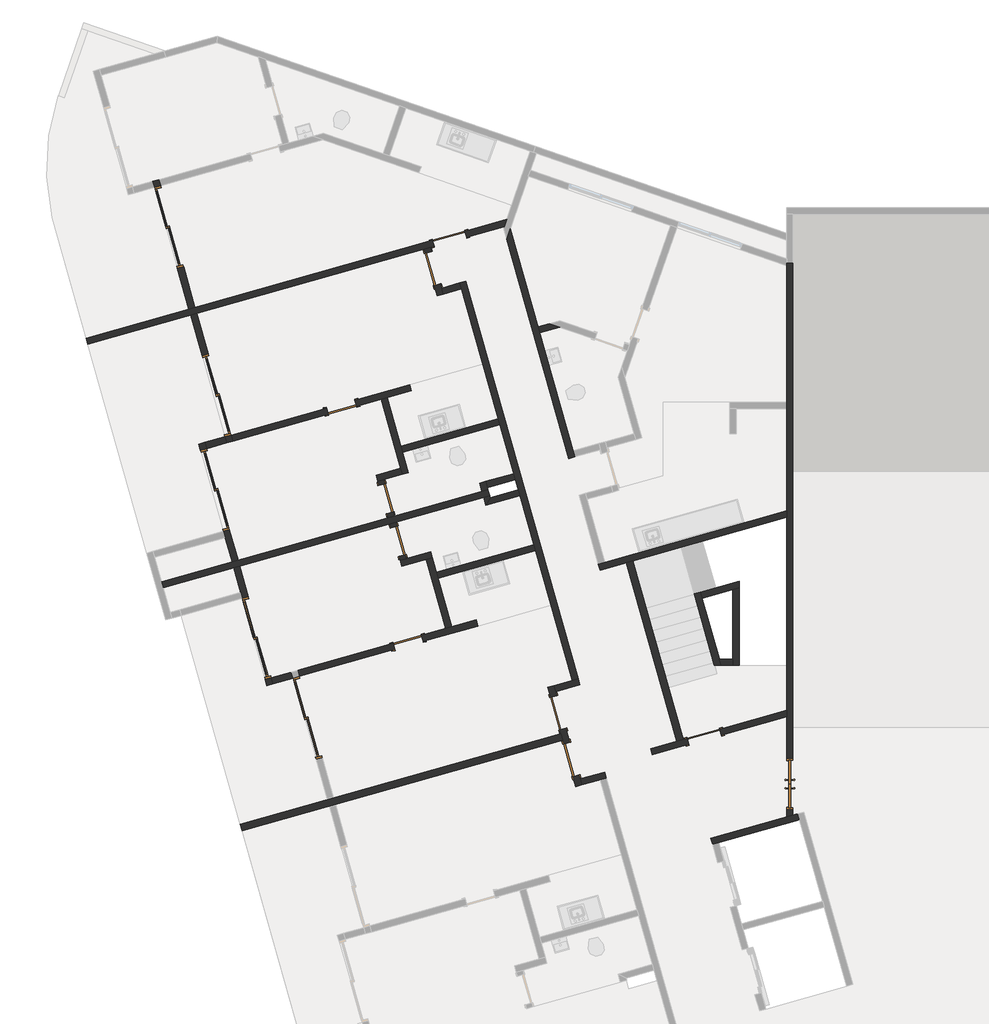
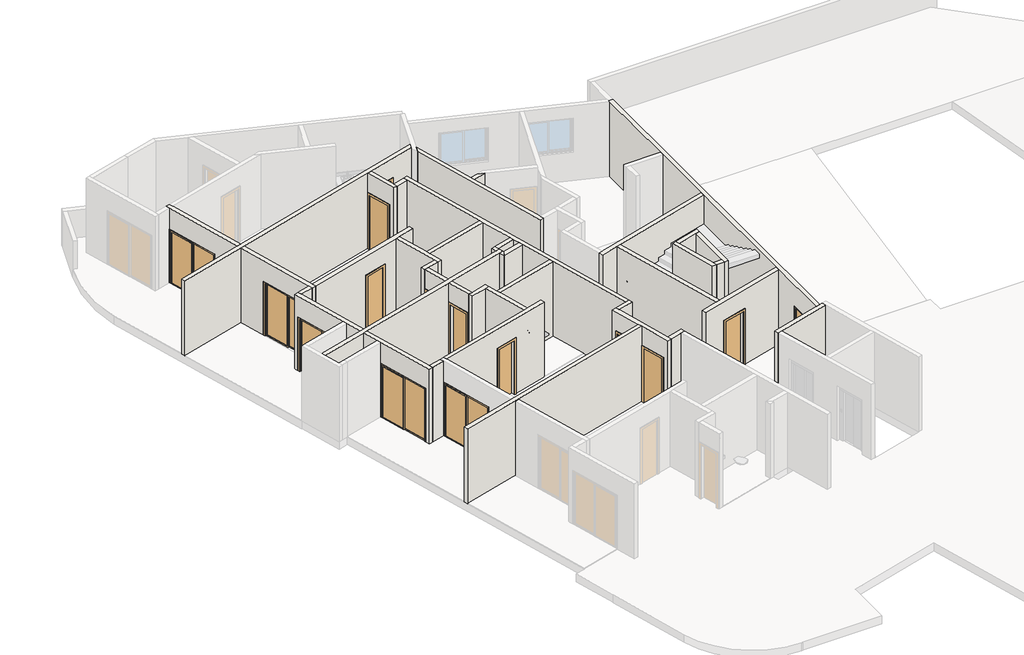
# One storey, part 2 of 4: 40 walls, 15 doors.
"""IFC4 building model written with IfcOpenShell, lengths in millimetres."""

from ifc_helpers import new_model, si_unit, frame, origin, place, context, project, spatial, polyline, outline, extrude, faceted_brep, transform, mapped, element, save
from components import door_1_20_x_2_10_046a985c, p2_80cm_9d4be4ef, p2_80cm_083652d6, p3_70cm_ef4d15e3, p3_70cm_0a698c7c, p4_correr_200cm_eaaa0877

model = new_model("IFC4")

# Units and contexts
model_context = context("Model", 3, world=origin())
ifc_project = project(units=[si_unit("LENGTHUNIT", "METRE", prefix="MILLI")], contexts=[model_context])

# Site, building, storey
site = spatial("IfcSite", under=ifc_project)
building = spatial("IfcBuilding", under=site)
storey = spatial("IfcBuildingStorey", under=building, Name="Garagem 3", Elevation=42050.0)

# Doors
placement = place(None, origin())
door_1_20_x_2_10_shape = door_1_20_x_2_10_046a985c(model_context)
element("IfcDoor", 1, ObjectType="Porta pivotante dupla sem revestimento : 1.20 x 2.10", at=placement, inside=storey, context=model_context, shape_type="MappedRepresentation", body=[
    mapped(door_1_20_x_2_10_shape, transform((-75072.8282189, 18002.5140353, 42050.0), x_axis=(0.0, -1.0, 0.0), y_axis=(1.0, 0.0, 0.0), z_axis=(0.0, 0.0, 1.0))),
])
p2_80cm_shape = p2_80cm_9d4be4ef(model_context)
element("IfcDoor", 2, ObjectType="M_Folha única1 : P2 - 80CM", at=placement, inside=storey, context=model_context, shape_type="MappedRepresentation", body=[
    mapped(p2_80cm_shape, transform((-83145.1128896, 30941.0402894, 42050.0), x_axis=(-0.9623628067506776, -0.2717679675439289, 0.0), y_axis=(0.2717679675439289, -0.9623628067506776, 0.0), z_axis=(0.0, 0.0, 1.0))),
])
element("IfcDoor", 3, ObjectType="M_Folha única1 : P2 - 80CM", at=placement, inside=storey, context=model_context, shape_type="MappedRepresentation", body=[
    mapped(p2_80cm_shape, transform((-80566.3456776, 19693.5423602, 42050.0), x_axis=(0.2717679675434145, -0.9623628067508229, 0.0), y_axis=(0.9623628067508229, 0.2717679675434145, 0.0), z_axis=(0.0, 0.0, 1.0))),
])
p2_80cm_2_shape = p2_80cm_083652d6(model_context)
element("IfcDoor", 4, ObjectType="M_Folha única1 : P2 - 80CM", at=placement, inside=storey, context=model_context, shape_type="MappedRepresentation", body=[
    mapped(p2_80cm_2_shape, transform((-83542.2049222, 30231.4150941, 42050.0), x_axis=(-0.2717679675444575, 0.9623628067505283, 0.0), y_axis=(-0.9623628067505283, -0.2717679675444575, 0.0), z_axis=(0.0, 0.0, 1.0))),
])
element("IfcDoor", 5, ObjectType="M_Folha única1 : P2 - 80CM", at=placement, inside=storey, context=model_context, shape_type="MappedRepresentation", body=[
    mapped(p2_80cm_2_shape, transform((-80253.8125149, 18586.8251325, 42050.0), x_axis=(-0.2717679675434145, 0.9623628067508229, 0.0), y_axis=(-0.9623628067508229, -0.2717679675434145, 0.0), z_axis=(0.0, 0.0, 1.0))),
])
p3_70cm_shape = p3_70cm_ef4d15e3(model_context)
element("IfcDoor", 6, ObjectType="M_Folha única1 : P3 - 70CM", at=placement, inside=storey, context=model_context, shape_type="MappedRepresentation", body=[
    mapped(p3_70cm_shape, transform((-84129.1775441, 21363.1168842, 42050.0), x_axis=(0.9623628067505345, 0.27176796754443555, 0.0), y_axis=(-0.27176796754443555, 0.9623628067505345, 0.0), z_axis=(0.0, 0.0, 1.0))),
])
element("IfcDoor", 7, ObjectType="M_Folha única1 : P3 - 70CM", at=placement, inside=storey, context=model_context, shape_type="MappedRepresentation", body=[
    mapped(p3_70cm_shape, transform((-84650.97864, 24774.7108835, 42050.0), x_axis=(0.2717679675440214, -0.9623628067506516, 0.0), y_axis=(0.9623628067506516, 0.2717679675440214, 0.0), z_axis=(0.0, 0.0, 1.0))),
])
p3_70cm_2_shape = p3_70cm_0a698c7c(model_context)
element("IfcDoor", 8, ObjectType="M_Folha única1 : P3 - 70CM", at=placement, inside=storey, context=model_context, shape_type="MappedRepresentation", body=[
    mapped(p3_70cm_2_shape, transform((-84365.6222741, 23764.2299364, 42050.0), x_axis=(-0.2717679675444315, 0.9623628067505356, 0.0), y_axis=(-0.9623628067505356, -0.2717679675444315, 0.0), z_axis=(0.0, 0.0, 1.0))),
])
element("IfcDoor", 9, ObjectType="M_Folha única1 : P3 - 70CM", at=placement, inside=storey, context=model_context, shape_type="MappedRepresentation", body=[
    mapped(p3_70cm_2_shape, transform((-85705.4317558, 26944.8211633, 42050.0), x_axis=(0.9623628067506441, 0.2717679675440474, 0.0), y_axis=(-0.2717679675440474, 0.9623628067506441, 0.0), z_axis=(0.0, 0.0, 1.0))),
])
p4_correr_200cm_shape = p4_correr_200cm_eaaa0877(model_context)
element("IfcDoor", 10, ObjectType="Porta de correr dupla envidraçada sem revestimento : P4 - CORRER - 200CM", at=placement, inside=storey, context=model_context, shape_type="MappedRepresentation", body=[
    mapped(p4_correr_200cm_shape, transform((-89799.7974026, 31217.9316171, 42050.0), x_axis=(0.27176796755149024, -0.9623628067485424, 0.0), y_axis=(0.9623628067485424, 0.27176796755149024, 0.0), z_axis=(0.0, 0.0, 1.0))),
])
element("IfcDoor", 11, ObjectType="Porta de correr dupla envidraçada sem revestimento : P4 - CORRER - 200CM", at=placement, inside=storey, context=model_context, shape_type="MappedRepresentation", body=[
    mapped(p4_correr_200cm_shape, transform((-88671.9603372, 27224.125969, 42050.0), x_axis=(-0.27176796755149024, 0.9623628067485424, 0.0), y_axis=(-0.9623628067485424, -0.27176796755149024, 0.0), z_axis=(0.0, 0.0, 1.0))),
])
element("IfcDoor", 12, ObjectType="Porta de correr dupla envidraçada sem revestimento : P4 - CORRER - 200CM", at=placement, inside=storey, context=model_context, shape_type="MappedRepresentation", body=[
    mapped(p4_correr_200cm_shape, transform((-86511.4049952, 19573.3416554, 42050.0), x_axis=(0.2717679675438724, -0.9623628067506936, 0.0), y_axis=(0.9623628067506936, 0.2717679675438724, 0.0), z_axis=(0.0, 0.0, 1.0))),
])
element("IfcDoor", 13, ObjectType="Porta de correr dupla envidraçada sem revestimento : P4 - CORRER - 200CM", at=placement, inside=storey, context=model_context, shape_type="MappedRepresentation", body=[
    mapped(p4_correr_200cm_shape, transform((-87717.4207223, 21466.8516126, 42050.0), x_axis=(0.2717679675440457, -0.9623628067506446, 0.0), y_axis=(0.9623628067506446, 0.2717679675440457, 0.0), z_axis=(0.0, 0.0, 1.0))),
])
element("IfcDoor", 14, ObjectType="Porta de correr dupla envidraçada sem revestimento : P4 - CORRER - 200CM", at=placement, inside=storey, context=model_context, shape_type="MappedRepresentation", body=[
    mapped(p4_correr_200cm_shape, transform((-88709.3738038, 24979.4758572, 42050.0), x_axis=(-0.2717679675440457, 0.9623628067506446, 0.0), y_axis=(-0.9623628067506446, -0.2717679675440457, 0.0), z_axis=(0.0, 0.0, 1.0))),
])
element("IfcDoor", 15, ObjectType="M_Folha única1 : PCF1 - 80CM", at=placement, inside=storey, context=model_context, shape_type="MappedRepresentation", body=[
    mapped(p2_80cm_shape, transform((-77103.5502958, 19127.1105693, 42050.0), x_axis=(-0.9623628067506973, -0.2717679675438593, 0.0), y_axis=(0.2717679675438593, -0.9623628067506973, 0.0), z_axis=(0.0, 0.0, 1.0))),
])

# Walls
element("IfcWall", 16, ObjectType="Básica .15 -  Interna", at=placement, inside=storey, context=model_context, shape_type="Brep", body=[
    faceted_brep([(-82901.0804648, 29892.9118737, 42050.0), (-82860.3152697, 29748.5574527, 42050.0), (-81990.6577736, 26668.9964711, 42050.0), (-81949.8925784, 26524.6420501, 42050.0), (-81623.7710174, 25369.806682, 42050.0), (-81583.0058223, 25225.452261, 42050.0), (-81515.0638304, 24984.8615593, 42050.0), (-81474.2986352, 24840.5071383, 42050.0), (-81148.1770742, 23685.6717702, 42050.0), (-81107.4118791, 23541.3173492, 42050.0), (-80237.7543829, 20461.7563676, 42050.0), (-80237.7543829, 20461.7563676, 44950.0), (-81107.4118791, 23541.3173492, 44950.0), (-81148.1770742, 23685.6717702, 44950.0), (-81474.2986352, 24840.5071383, 44950.0), (-81515.0638304, 24984.8615593, 44950.0), (-81583.0058223, 25225.452261, 44950.0), (-81623.7710174, 25369.806682, 44950.0), (-81949.8925784, 26524.6420501, 44950.0), (-81990.6577736, 26668.9964711, 44950.0), (-82860.3152697, 29748.5574527, 44950.0), (-82901.0804648, 29892.9118737, 44950.0), (-82756.7260438, 29933.6770689, 42050.0), (-82756.7260438, 29933.6770689, 44950.0), (-80093.3999619, 20502.5215627, 44950.0), (-80093.3999619, 20502.5215627, 42050.0)], [[[0, 1, 2, 3, 4, 5, 6, 7, 8, 9, 10, 11, 12, 13, 14, 15, 16, 17, 18, 19, 20, 21]], [[22, 23, 24, 25]], [[10, 9, 8, 7, 6, 5, 4, 3, 2, 1, 0, 22, 25]], [[21, 20, 19, 18, 17, 16, 15, 14, 13, 12, 11, 24, 23]], [[0, 21, 23, 22]], [[11, 10, 25, 24]]]),
])
element("IfcWall", 17, ObjectType="Básica .15 -  Interna", at=placement, inside=storey, context=model_context, shape_type="Brep", body=[
    faceted_brep([(-83750.2661164, 30692.2138999, 42050.0), (-83723.0893197, 30595.9776193, 42050.0), (-83723.0893197, 30595.9776193, 44150.0), (-83505.6749457, 29826.0873739, 44150.0), (-83505.6749457, 29826.0873739, 42050.0), (-83437.7329538, 29585.4966722, 42050.0), (-83437.7329538, 29585.4966722, 44950.0), (-83750.2661164, 30692.2138999, 44950.0), (-83578.7348987, 30636.7428144, 44150.0), (-83578.7348987, 30636.7428144, 42050.0), (-83605.9116954, 30732.9790951, 42050.0), (-83605.9116954, 30732.9790951, 44950.0), (-83334.1437279, 29770.6162883, 44950.0), (-83293.3785328, 29626.2618673, 44950.0), (-83293.3785328, 29626.2618673, 42050.0), (-83334.1437279, 29770.6162883, 42050.0), (-83361.3205246, 29866.852569, 42050.0), (-83361.3205246, 29866.852569, 44150.0)], [[[0, 1, 2, 3, 4, 5, 6, 7]], [[8, 9, 10, 11, 12, 13, 14, 15, 16, 17]], [[10, 9, 1, 0]], [[16, 15, 14, 5, 4]], [[7, 6, 13, 12, 11]], [[6, 5, 14, 13]], [[0, 7, 11, 10]], [[2, 1, 9, 8]], [[3, 2, 8, 17]], [[4, 3, 17, 16]]]),
])
element("IfcWall", 18, ObjectType="Básica .15 -  Interna", at=placement, inside=storey, context=model_context, shape_type="SweptSolid", body=[
    extrude(outline(polyline([(-82860.3152697, 29748.5574527), (-83293.3785328, 29626.2618673), (-83334.1437279, 29770.6162883), (-82901.0804648, 29892.9118737), (-82860.3152697, 29748.5574527)])), frame((0.0, 0.0, 42050.0), z_axis=(0.0, 0.0, 1.0), x_axis=(1.0, 0.0, 0.0)), (0.0, 0.0, 1.0), 2900.0),
])
element("IfcWall", 19, ObjectType="Básica .15 -  Interna", at=placement, inside=storey, context=model_context, shape_type="Brep", body=[
    faceted_brep([(-80093.3999619, 20502.5215627, 42050.0), (-80237.7543829, 20461.7563676, 42050.0), (-80670.817646, 20339.4607822, 42050.0), (-80670.817646, 20339.4607822, 44950.0), (-80237.7543829, 20461.7563676, 44950.0), (-80093.3999619, 20502.5215627, 44950.0), (-80052.6347668, 20358.1671417, 42050.0), (-80052.6347668, 20358.1671417, 44950.0), (-80630.0524508, 20195.1063612, 44950.0), (-80630.0524508, 20195.1063612, 42050.0)], [[[0, 1, 2, 3, 4, 5]], [[6, 7, 8, 9]], [[2, 1, 0, 6, 9]], [[5, 4, 3, 8, 7]], [[3, 2, 9, 8]], [[0, 5, 7, 6]]]),
])
element("IfcWall", 20, ObjectType="Básica .15 -  Interna", at=placement, inside=storey, context=model_context, shape_type="Brep", body=[
    faceted_brep([(-80529.815701, 19288.21464, 42050.0), (-80502.6389043, 19191.9783593, 42050.0), (-80461.8737092, 19047.6239383, 42050.0), (-80434.6969124, 18951.3876576, 42050.0), (-80434.6969124, 18951.3876576, 44150.0), (-80217.2825384, 18181.4974122, 44150.0), (-80217.2825384, 18181.4974122, 42050.0), (-80149.3405465, 17940.9067105, 42050.0), (-80149.3405465, 17940.9067105, 44950.0), (-80461.8737092, 19047.6239383, 44950.0), (-80502.6389043, 19191.9783593, 44950.0), (-80815.172067, 20298.695587, 44950.0), (-80815.172067, 20298.695587, 42050.0), (-80747.2300751, 20058.1048854, 42050.0), (-80747.2300751, 20058.1048854, 44150.0), (-80529.815701, 19288.21464, 44150.0), (-80290.3424914, 18992.1528527, 44150.0), (-80290.3424914, 18992.1528527, 42050.0), (-80385.46128, 19328.9798351, 42050.0), (-80385.46128, 19328.9798351, 44150.0), (-80602.8756541, 20098.8700805, 44150.0), (-80602.8756541, 20098.8700805, 42050.0), (-80630.0524508, 20195.1063612, 42050.0), (-80670.817646, 20339.4607822, 42050.0), (-80670.817646, 20339.4607822, 44950.0), (-80630.0524508, 20195.1063612, 44950.0), (-80045.7513206, 18126.0263266, 44950.0), (-80004.9861255, 17981.6719056, 44950.0), (-80004.9861255, 17981.6719056, 42050.0), (-80045.7513206, 18126.0263266, 42050.0), (-80072.9281174, 18222.2626073, 42050.0), (-80072.9281174, 18222.2626073, 44150.0)], [[[0, 1, 2, 3, 4, 5, 6, 7, 8, 9, 10, 11, 12, 13, 14, 15]], [[16, 17, 18, 19, 20, 21, 22, 23, 24, 25, 26, 27, 28, 29, 30, 31]], [[13, 12, 23, 22, 21]], [[18, 17, 3, 2, 1, 0]], [[30, 29, 28, 7, 6]], [[11, 10, 9, 8, 27, 26, 25, 24]], [[12, 11, 24, 23]], [[8, 7, 28, 27]], [[19, 18, 0, 15]], [[20, 19, 15, 14]], [[21, 20, 14, 13]], [[4, 3, 17, 16]], [[5, 4, 16, 31]], [[6, 5, 31, 30]]]),
])
element("IfcWall", 21, ObjectType="Básica .15 -  Interna", at=placement, inside=storey, context=model_context, shape_type="Brep", body=[
    faceted_brep([(-80004.9861255, 17981.6719056, 42050.0), (-79571.9228624, 18103.967491, 42050.0), (-79427.5684414, 18144.7326862, 42050.0), (-79427.5684414, 18144.7326862, 44950.0), (-79571.9228624, 18103.967491, 44950.0), (-80004.9861255, 17981.6719056, 44950.0), (-80045.7513206, 18126.0263266, 42050.0), (-80045.7513206, 18126.0263266, 44950.0), (-79468.3336366, 18289.0871072, 44950.0), (-79468.3336366, 18289.0871072, 42050.0)], [[[0, 1, 2, 3, 4, 5]], [[6, 7, 8, 9]], [[2, 1, 0, 6, 9]], [[5, 4, 3, 8, 7]], [[3, 2, 9, 8]], [[0, 5, 7, 6]]]),
])
element("IfcWall", 22, ObjectType="Básica .15 -  Interna", at=placement, inside=storey, context=model_context, shape_type="Brep", body=[
    faceted_brep([(-88305.9570711, 23274.9583478, 44950.0), (-88469.0178517, 23852.3760319, 44950.0), (-88509.7830468, 23996.7304529, 44950.0), (-89094.084177, 26065.8104874, 44950.0), (-89094.084177, 26065.8104874, 42050.0), (-89053.3189819, 25921.4560664, 42050.0), (-89053.3189819, 25921.4560664, 44150.0), (-88509.7830468, 23996.7304529, 44150.0), (-88509.7830468, 23996.7304529, 42050.0), (-88469.0178517, 23852.3760319, 42050.0), (-88305.9570711, 23274.9583478, 42050.0), (-88949.729756, 26106.5756825, 44950.0), (-88908.9645609, 25962.2212615, 44950.0), (-88161.6026501, 23315.723543, 44950.0), (-88161.6026501, 23315.723543, 42050.0), (-88365.4286258, 24037.495648, 42050.0), (-88365.4286258, 24037.495648, 44150.0), (-88908.9645609, 25962.2212615, 44150.0), (-88908.9645609, 25962.2212615, 42050.0), (-88949.729756, 26106.5756825, 42050.0)], [[[0, 1, 2, 3, 4, 5, 6, 7, 8, 9, 10]], [[11, 12, 13, 14, 15, 16, 17, 18, 19]], [[4, 19, 18, 5]], [[14, 10, 9, 8, 15]], [[3, 2, 1, 0, 13, 12, 11]], [[4, 3, 11, 19]], [[0, 10, 14, 13]], [[17, 6, 5, 18]], [[6, 17, 16, 7]], [[7, 16, 15, 8]]]),
])
element("IfcWall", 23, ObjectType="Básica .15 -  Interna", at=placement, inside=storey, context=model_context, shape_type="Brep", body=[
    faceted_brep([(-89143.3190618, 29169.2341801, 44950.0), (-88328.0151592, 26282.1457598, 44950.0), (-88287.249964, 26137.7913388, 44950.0), (-88287.249964, 26137.7913388, 42050.0), (-88328.0151592, 26282.1457598, 42050.0), (-88328.0151592, 26282.1457598, 44150.0), (-88871.5510943, 28206.8713733, 44150.0), (-88871.5510943, 28206.8713733, 42050.0), (-89143.3190618, 29169.2341801, 42050.0), (-88431.604385, 26097.0261437, 44950.0), (-88472.3695802, 26241.3805647, 44950.0), (-89287.6734828, 29128.468985, 44950.0), (-89287.6734828, 29128.468985, 42050.0), (-89015.9055153, 28166.1061782, 42050.0), (-89015.9055153, 28166.1061782, 44150.0), (-88472.3695802, 26241.3805647, 44150.0), (-88472.3695802, 26241.3805647, 42050.0), (-88431.604385, 26097.0261437, 42050.0)], [[[0, 1, 2, 3, 4, 5, 6, 7, 8]], [[9, 10, 11, 12, 13, 14, 15, 16, 17]], [[3, 17, 16, 4]], [[12, 8, 7, 13]], [[2, 1, 0, 11, 10, 9]], [[3, 2, 9, 17]], [[0, 8, 12, 11]], [[6, 14, 13, 7]], [[14, 6, 5, 15]], [[15, 5, 4, 16]]]),
])
element("IfcWall", 24, ObjectType="Básica .15 -  Interna", at=placement, inside=storey, context=model_context, shape_type="Brep", body=[
    faceted_brep([(-76904.7538909, 16570.3643175, 42050.0), (-76760.3994699, 16611.1295126, 42050.0), (-74840.4856705, 17153.3066079, 42050.0), (-74840.4856705, 17153.3066079, 44950.0), (-76760.3994699, 16611.1295126, 44950.0), (-76904.7538909, 16570.3643175, 44950.0), (-76945.5190861, 16714.7187385, 42050.0), (-76945.5190861, 16714.7187385, 44950.0), (-75147.8282189, 17222.3804954, 44950.0), (-74997.8282189, 17264.7399828, 44950.0), (-74881.2508656, 17297.6610289, 44950.0), (-74881.2508656, 17297.6610289, 42050.0), (-74997.8282189, 17264.7399828, 42050.0), (-75147.8282189, 17222.3804954, 42050.0)], [[[0, 1, 2, 3, 4, 5]], [[6, 7, 8, 9, 10, 11, 12, 13]], [[2, 1, 0, 6, 13, 12, 11]], [[5, 4, 3, 10, 9, 8, 7]], [[0, 5, 7, 6]], [[3, 2, 11, 10]]]),
])
element("IfcWall", 25, ObjectType="Básica .15 -  Interna", at=placement, inside=storey, context=model_context, shape_type="Brep", body=[
    faceted_brep([(-79570.9048554, 23078.5590693, 42050.0), (-78948.2127609, 23254.4051886, 42050.0), (-78803.8582924, 23295.1703972, 42050.0), (-75147.8282189, 24327.6207947, 42050.0), (-75147.8282189, 24327.6207947, 44950.0), (-78803.8582924, 23295.1703972, 44950.0), (-78948.2127609, 23254.4051886, 44950.0), (-79570.9048554, 23078.5590693, 44950.0), (-79611.6700506, 23222.9134903, 42050.0), (-79611.6700506, 23222.9134903, 44950.0), (-79467.3156296, 23263.6786855, 44950.0), (-75147.8282189, 24483.4871675, 44950.0), (-75147.8282189, 24483.4871675, 42050.0), (-79467.3156296, 23263.6786855, 42050.0)], [[[0, 1, 2, 3, 4, 5, 6, 7]], [[8, 9, 10, 11, 12, 13]], [[3, 2, 1, 0, 8, 13, 12]], [[7, 6, 5, 4, 11, 10, 9]], [[0, 7, 9, 8]], [[4, 3, 12, 11]]]),
])
element("IfcWall", 26, ObjectType="Básica .15 -  Interna", at=placement, inside=storey, context=model_context, shape_type="SweptSolid", body=[
    extrude(outline(polyline([(-77749.4687652, 19022.6385875), (-78948.2127609, 23254.4051886), (-78803.8582924, 23295.1703972), (-77605.1142967, 19063.4037961), (-77749.4687652, 19022.6385875)])), frame((0.0, 0.0, 42050.0), z_axis=(0.0, 0.0, 1.0), x_axis=(1.0, 0.0, 0.0)), (0.0, 0.0, 1.0), 2900.0),
])
element("IfcWall", 27, ObjectType="Básica .15 -  Interna", at=placement, inside=storey, context=model_context, shape_type="Brep", body=[
    faceted_brep([(-77508.878016, 19090.5805928, 44150.0), (-77508.878016, 19090.5805928, 42050.0), (-77605.1142967, 19063.4037961, 42050.0), (-77749.4687652, 19022.6385875, 42050.0), (-78375.5945972, 18845.8227925, 42050.0), (-78375.5945972, 18845.8227925, 44950.0), (-77749.4687652, 19022.6385875, 44950.0), (-77605.1142967, 19063.4037961, 44950.0), (-75147.8282189, 19757.3329862, 44950.0), (-75147.8282189, 19757.3329862, 42050.0), (-76738.9877706, 19307.9949669, 42050.0), (-76738.9877706, 19307.9949669, 44150.0), (-78334.829402, 18701.4683715, 42050.0), (-77468.1128209, 18946.2261718, 42050.0), (-77468.1128209, 18946.2261718, 44150.0), (-76698.2225755, 19163.6405459, 44150.0), (-76698.2225755, 19163.6405459, 42050.0), (-75147.8282189, 19601.4666134, 42050.0), (-75147.8282189, 19601.4666134, 44950.0), (-78334.829402, 18701.4683715, 44950.0)], [[[0, 1, 2, 3, 4, 5, 6, 7, 8, 9, 10, 11]], [[12, 13, 14, 15, 16, 17, 18, 19]], [[10, 9, 17, 16]], [[4, 3, 2, 1, 13, 12]], [[5, 4, 12, 19]], [[8, 7, 6, 5, 19, 18]], [[14, 13, 1, 0]], [[15, 14, 0, 11]], [[16, 15, 11, 10]], [[9, 8, 18, 17]]]),
])
element("IfcWall", 28, ObjectType="Básica .15 -  Interna", at=placement, inside=storey, context=model_context, shape_type="Brep", body=[
    faceted_brep([(-75147.8282189, 17222.3804954, 44950.0), (-75147.8282189, 19601.4666134, 44950.0), (-75147.8282189, 19757.3329862, 44950.0), (-75147.8282189, 24327.6207947, 44950.0), (-75147.8282189, 24483.4871675, 44950.0), (-75147.8282189, 26910.8243598, 44950.0), (-75147.8282189, 27060.8243598, 44950.0), (-75147.8282189, 30302.8666514, 44950.0), (-75147.8282189, 30356.258394, 44950.0), (-75147.8282189, 30356.258394, 42050.0), (-75147.8282189, 30302.8666514, 42050.0), (-75147.8282189, 27060.8243598, 42050.0), (-75147.8282189, 26910.8243598, 42050.0), (-75147.8282189, 24483.4871675, 42050.0), (-75147.8282189, 24327.6207947, 42050.0), (-75147.8282189, 19757.3329862, 42050.0), (-75147.8282189, 19601.4666134, 42050.0), (-75147.8282189, 18602.5140353, 42050.0), (-75147.8282189, 18602.5140353, 44150.0), (-75147.8282189, 17402.5140353, 44150.0), (-75147.8282189, 17402.5140353, 42050.0), (-75147.8282189, 17222.3804954, 42050.0), (-74997.8282189, 30356.258394, 44950.0), (-74997.8282189, 17264.7399828, 44950.0), (-74997.8282189, 17264.7399828, 42050.0), (-74997.8282189, 17402.5140353, 42050.0), (-74997.8282189, 17402.5140353, 44150.0), (-74997.8282189, 18602.5140353, 44150.0), (-74997.8282189, 18602.5140353, 42050.0), (-74997.8282189, 30356.258394, 42050.0)], [[[0, 1, 2, 3, 4, 5, 6, 7, 8, 9, 10, 11, 12, 13, 14, 15, 16, 17, 18, 19, 20, 21]], [[22, 23, 24, 25, 26, 27, 28, 29]], [[24, 21, 20, 25]], [[9, 29, 28, 17, 16, 15, 14, 13, 12, 11, 10]], [[8, 7, 6, 5, 4, 3, 2, 1, 0, 23, 22]], [[9, 8, 22, 29]], [[0, 21, 24, 23]], [[19, 26, 25, 20]], [[26, 19, 18, 27]], [[27, 18, 17, 28]]]),
])
element("IfcWall", 29, ObjectType="Básica .15 -  Interna", at=placement, inside=storey, context=model_context, shape_type="Brep", body=[
    faceted_brep([(-81789.2550074, 30934.0017027, 42050.0), (-80318.2667662, 25725.0567879, 42050.0), (-80318.2667662, 25725.0567879, 44950.0), (-81789.2550074, 30934.0017027, 44950.0), (-81703.3880158, 31181.8778654, 42050.0), (-81703.3880158, 31181.8778654, 44950.0), (-81045.1503443, 28850.9797144, 44950.0), (-81004.3851492, 28706.6252933, 44950.0), (-80214.6775403, 25910.176404, 44950.0), (-80173.9123452, 25765.821983, 44950.0), (-80173.9123452, 25765.821983, 42050.0), (-80214.6775403, 25910.176404, 42050.0), (-81004.3851492, 28706.6252933, 42050.0), (-81045.1503443, 28850.9797144, 42050.0)], [[[0, 1, 2, 3]], [[4, 5, 6, 7, 8, 9, 10, 11, 12, 13]], [[1, 0, 4, 13, 12, 11, 10]], [[3, 2, 9, 8, 7, 6, 5]], [[0, 3, 5, 4]], [[2, 1, 10, 9]]]),
])
element("IfcWall", 30, ObjectType="Básica .15 -  Interna", at=placement, inside=storey, context=model_context, shape_type="Brep", body=[
    faceted_brep([(-86896.1153684, 20659.6762856, 42050.0), (-87373.4755442, 20524.8714034, 42050.0), (-87373.4755442, 20524.8714034, 44150.0), (-87373.4755442, 20524.8714034, 44950.0), (-86896.1153684, 20659.6762856, 44950.0), (-86855.3501733, 20515.3218646, 42050.0), (-86855.3501733, 20515.3218646, 44150.0), (-86855.3501733, 20515.3218646, 44950.0), (-87332.7103491, 20380.5169824, 44950.0), (-87332.7103491, 20380.5169824, 42050.0)], [[[0, 1, 2, 3, 4]], [[5, 6, 7, 8, 9]], [[1, 0, 5, 9]], [[4, 3, 8, 7]], [[0, 4, 7, 6, 5]], [[3, 2, 1, 9, 8]]]),
])
element("IfcWall", 31, ObjectType="Básica .15 -  Interna", at=placement, inside=storey, context=model_context, shape_type="Brep", body=[
    faceted_brep([(-88908.9645609, 25962.2212615, 42050.0), (-88431.604385, 26097.0261437, 42050.0), (-88431.604385, 26097.0261437, 44950.0), (-88908.9645609, 25962.2212615, 44950.0), (-88908.9645609, 25962.2212615, 44150.0), (-88949.729756, 26106.5756825, 42050.0), (-88949.729756, 26106.5756825, 44950.0), (-88472.3695802, 26241.3805647, 44950.0), (-88472.3695802, 26241.3805647, 44150.0), (-88472.3695802, 26241.3805647, 42050.0)], [[[0, 1, 2, 3, 4]], [[5, 6, 7, 8, 9]], [[1, 0, 5, 9]], [[3, 2, 7, 6]], [[0, 4, 3, 6, 5]], [[2, 1, 9, 8, 7]]]),
])
element("IfcWall", 32, ObjectType="Básica .15 -  Interna", at=placement, inside=storey, context=model_context, shape_type="Brep", body=[
    faceted_brep([(-91725.2428613, 28440.1077234, 42050.0), (-89287.6734828, 29128.468985, 42050.0), (-89143.3190618, 29169.2341801, 42050.0), (-83750.2661164, 30692.2138999, 42050.0), (-83605.9116954, 30732.9790951, 42050.0), (-83509.6754148, 30760.1558918, 42050.0), (-83509.6754148, 30760.1558918, 44150.0), (-82739.7851694, 30977.5702659, 44150.0), (-82739.7851694, 30977.5702659, 42050.0), (-81845.4155775, 31230.1371819, 42050.0), (-81845.4155775, 31230.1371819, 44950.0), (-83605.9116954, 30732.9790951, 44950.0), (-83750.2661164, 30692.2138999, 44950.0), (-89143.3190618, 29169.2341801, 44950.0), (-89287.6734828, 29128.468985, 44950.0), (-91725.2428613, 28440.1077234, 44950.0), (-83550.4406099, 30904.5103128, 44150.0), (-83550.4406099, 30904.5103128, 42050.0), (-89184.084257, 29313.5886011, 42050.0), (-89328.438678, 29272.823406, 42050.0), (-91766.0080564, 28584.4621444, 42050.0), (-91766.0080564, 28584.4621444, 44950.0), (-89328.438678, 29272.823406, 44950.0), (-89184.084257, 29313.5886011, 44950.0), (-81785.5670817, 31402.9045654, 44950.0), (-81785.5670817, 31402.9045654, 42050.0), (-82780.5503645, 31121.9246869, 42050.0), (-82780.5503645, 31121.9246869, 44150.0)], [[[0, 1, 2, 3, 4, 5, 6, 7, 8, 9, 10, 11, 12, 13, 14, 15]], [[16, 17, 18, 19, 20, 21, 22, 23, 24, 25, 26, 27]], [[26, 25, 9, 8]], [[20, 19, 18, 17, 5, 4, 3, 2, 1, 0]], [[15, 14, 13, 12, 11, 10, 24, 23, 22, 21]], [[0, 15, 21, 20]], [[10, 9, 25, 24]], [[6, 5, 17, 16]], [[7, 6, 16, 27]], [[8, 7, 27, 26]]]),
])
element("IfcWall", 33, ObjectType="Básica .15 -  Interna", at=placement, inside=storey, context=model_context, shape_type="Brep", body=[
    faceted_brep([(-90040.1533547, 32345.0314424, 44950.0), (-89999.3881596, 32200.6770214, 44950.0), (-89184.084257, 29313.5886011, 44950.0), (-89184.084257, 29313.5886011, 42050.0), (-89455.8522245, 30275.9514079, 42050.0), (-89455.8522245, 30275.9514079, 44150.0), (-89999.3881596, 32200.6770214, 44150.0), (-89999.3881596, 32200.6770214, 42050.0), (-90040.1533547, 32345.0314424, 42050.0), (-89328.438678, 29272.823406, 44950.0), (-90143.7425806, 32159.9118263, 44950.0), (-90184.5077758, 32304.2662473, 44950.0), (-90184.5077758, 32304.2662473, 42050.0), (-90143.7425806, 32159.9118262, 42050.0), (-90143.7425806, 32159.9118262, 44150.0), (-89600.2066455, 30235.1862128, 44150.0), (-89600.2066455, 30235.1862128, 42050.0), (-89328.438678, 29272.823406, 42050.0)], [[[0, 1, 2, 3, 4, 5, 6, 7, 8]], [[9, 10, 11, 12, 13, 14, 15, 16, 17]], [[12, 8, 7, 13]], [[3, 17, 16, 4]], [[2, 1, 0, 11, 10, 9]], [[0, 8, 12, 11]], [[3, 2, 9, 17]], [[15, 5, 4, 16]], [[5, 15, 14, 6]], [[6, 14, 13, 7]]]),
])
element("IfcWall", 34, ObjectType="Básica .15 -  Interna", at=placement, inside=storey, context=model_context, shape_type="Brep", body=[
    faceted_brep([(-89936.6922366, 22658.5779377, 42050.0), (-88265.191876, 23130.6039268, 42050.0), (-88120.837455, 23171.369122, 42050.0), (-84560.09507, 24176.9106019, 42050.0), (-84415.740649, 24217.675797, 42050.0), (-82192.6825654, 24845.459802, 42050.0), (-82192.6825654, 24845.459802, 44950.0), (-84415.740649, 24217.675797, 44950.0), (-84560.09507, 24176.9106019, 44950.0), (-88120.837455, 23171.369122, 44950.0), (-88265.191876, 23130.6039268, 44950.0), (-89936.6922366, 22658.5779377, 44950.0), (-89977.4574318, 22802.9323587, 42050.0), (-89977.4574318, 22802.9323587, 44950.0), (-88305.9570711, 23274.9583478, 44950.0), (-88161.6026501, 23315.723543, 44950.0), (-84600.8602651, 24321.2650229, 44950.0), (-84456.5058441, 24362.030218, 44950.0), (-82233.4477605, 24989.814223, 44950.0), (-82233.4477605, 24989.814223, 42050.0), (-84456.5058441, 24362.030218, 42050.0), (-84600.8602651, 24321.2650229, 42050.0), (-88161.6026501, 23315.723543, 42050.0), (-88305.9570711, 23274.9583478, 42050.0)], [[[0, 1, 2, 3, 4, 5, 6, 7, 8, 9, 10, 11]], [[12, 13, 14, 15, 16, 17, 18, 19, 20, 21, 22, 23]], [[5, 4, 3, 2, 1, 0, 12, 23, 22, 21, 20, 19]], [[6, 5, 19, 18]], [[11, 10, 9, 8, 7, 6, 18, 17, 16, 15, 14, 13]], [[0, 11, 13, 12]]]),
])
element("IfcWall", 35, ObjectType="Básica .15 -  Interna", at=placement, inside=storey, context=model_context, shape_type="Brep", body=[
    faceted_brep([(-87477.0647701, 20339.7517872, 44950.0), (-88061.3659003, 22408.8318218, 44950.0), (-88102.1310955, 22553.1862428, 44950.0), (-88265.191876, 23130.6039268, 44950.0), (-88265.191876, 23130.6039268, 42050.0), (-88102.1310955, 22553.1862428, 42050.0), (-88061.3659003, 22408.8318218, 42050.0), (-88061.3659003, 22408.8318218, 44150.0), (-87517.8299653, 20484.1062083, 44150.0), (-87517.8299653, 20484.1062083, 42050.0), (-87477.0647701, 20339.7517872, 42050.0), (-88120.837455, 23171.369122, 44950.0), (-87373.4755442, 20524.8714034, 44950.0), (-87332.7103491, 20380.5169824, 44950.0), (-87332.7103491, 20380.5169824, 42050.0), (-87373.4755442, 20524.8714034, 42050.0), (-87373.4755442, 20524.8714034, 44150.0), (-87917.0114793, 22449.5970169, 44150.0), (-87917.0114793, 22449.5970169, 42050.0), (-88120.837455, 23171.369122, 42050.0)], [[[0, 1, 2, 3, 4, 5, 6, 7, 8, 9, 10]], [[11, 12, 13, 14, 15, 16, 17, 18, 19]], [[14, 10, 9, 15]], [[4, 19, 18, 6, 5]], [[3, 2, 1, 0, 13, 12, 11]], [[0, 10, 14, 13]], [[4, 3, 11, 19]], [[8, 16, 15, 9]], [[16, 8, 7, 17]], [[17, 7, 6, 18]]]),
])
element("IfcWall", 36, ObjectType="Básica .15 -  Interna", at=placement, inside=storey, context=model_context, shape_type="SweptSolid", body=[
    extrude(outline(polyline([(-80461.8737092, 19047.6239383), (-88068.36111, 16899.5778931), (-88109.1263052, 17043.9323141), (-80502.6389043, 19191.9783593), (-80461.8737092, 19047.6239383)])), frame((0.0, 0.0, 42050.0), z_axis=(0.0, 0.0, 1.0), x_axis=(1.0, 0.0, 0.0)), (0.0, 0.0, 1.0), 2900.0),
])
element("IfcWall", 37, ObjectType="Básica .15 -  Interna", at=placement, inside=storey, context=model_context, shape_type="SweptSolid", body=[
    extrude(outline(polyline([(-82179.094167, 24797.3416617), (-81515.0638304, 24984.8615593), (-81474.2986352, 24840.5071383), (-82282.6833929, 24612.2220455), (-82179.094167, 24797.3416617)])), frame((0.0, 0.0, 42050.0), z_axis=(0.0, 0.0, 1.0), x_axis=(1.0, 0.0, 0.0)), (0.0, 0.0, 1.0), 2900.0),
])
element("IfcWall", 38, ObjectType="Básica .15 -  Interna", at=placement, inside=storey, context=model_context, shape_type="SweptSolid", body=[
    extrude(outline(polyline([(-82192.6825654, 24845.459802), (-82179.094167, 24797.3416617), (-82282.6833929, 24612.2220455), (-82337.0369864, 24804.6946069), (-82192.6825654, 24845.459802)])), frame((0.0, 0.0, 42050.0), z_axis=(0.0, 0.0, 1.0), x_axis=(1.0, 0.0, 0.0)), (0.0, 0.0, 1.0), 2900.0),
])
element("IfcWall", 39, ObjectType="Básica .15 -  Interna", at=placement, inside=storey, context=model_context, shape_type="Brep", body=[
    faceted_brep([(-83593.7317942, 23514.6100515, 42050.0), (-84171.1494782, 23351.5492709, 42050.0), (-84315.5038992, 23310.7840758, 42050.0), (-84315.5038992, 23310.7840758, 44950.0), (-84171.1494782, 23351.5492709, 44950.0), (-83593.7317942, 23514.6100515, 44950.0), (-83552.966599, 23370.2556304, 42050.0), (-83552.966599, 23370.2556304, 44950.0), (-83697.32102, 23329.4904353, 44950.0), (-84274.7387041, 23166.4296548, 44950.0), (-84274.7387041, 23166.4296548, 42050.0), (-83697.32102, 23329.4904353, 42050.0)], [[[0, 1, 2, 3, 4, 5]], [[6, 7, 8, 9, 10, 11]], [[2, 1, 0, 6, 11, 10]], [[5, 4, 3, 9, 8, 7]], [[0, 5, 7, 6]], [[3, 2, 10, 9]]]),
])
element("IfcWall", 40, ObjectType="Básica .15 -  Interna", at=placement, inside=storey, context=model_context, shape_type="Brep", body=[
    faceted_brep([(-83090.9610542, 21734.238859, 42050.0), (-83417.0826153, 22889.0742271, 42050.0), (-83457.8478104, 23033.4286481, 42050.0), (-83552.966599, 23370.2556304, 42050.0), (-83552.966599, 23370.2556304, 44950.0), (-83457.8478104, 23033.4286481, 44950.0), (-83417.0826153, 22889.0742271, 44950.0), (-83090.9610542, 21734.238859, 44950.0), (-83235.3154752, 21693.4736638, 42050.0), (-83235.3154752, 21693.4736638, 44950.0), (-83697.32102, 23329.4904353, 44950.0), (-83697.32102, 23329.4904353, 42050.0)], [[[0, 1, 2, 3, 4, 5, 6, 7]], [[8, 9, 10, 11]], [[3, 2, 1, 0, 8, 11]], [[7, 6, 5, 4, 10, 9]], [[0, 7, 9, 8]], [[4, 3, 11, 10]]]),
])
element("IfcWall", 41, ObjectType="Básica .15 -  Interna", at=placement, inside=storey, context=model_context, shape_type="SweptSolid", body=[
    extrude(outline(polyline([(-83457.8478104, 23033.4286481), (-81148.1770742, 23685.6717702), (-81107.4118791, 23541.3173492), (-83417.0826153, 22889.0742271), (-83457.8478104, 23033.4286481)])), frame((0.0, 0.0, 42050.0), z_axis=(0.0, 0.0, 1.0), x_axis=(1.0, 0.0, 0.0)), (0.0, 0.0, 1.0), 2900.0),
])
element("IfcWall", 42, ObjectType="Básica .15 -  Interna", at=placement, inside=storey, context=model_context, shape_type="Brep", body=[
    faceted_brep([(-82513.5433702, 21897.2996395, 42050.0), (-83090.9610542, 21734.238859, 42050.0), (-83235.3154752, 21693.4736638, 42050.0), (-83812.7331593, 21530.4128833, 42050.0), (-83812.7331593, 21530.4128833, 44150.0), (-84486.387124, 21340.175306, 44150.0), (-84486.387124, 21340.175306, 42050.0), (-86751.7609474, 20700.4414807, 42050.0), (-86751.7609474, 20700.4414807, 44950.0), (-83235.3154752, 21693.4736638, 44950.0), (-83090.9610542, 21734.238859, 44950.0), (-82513.5433702, 21897.2996395, 44950.0), (-83771.9679641, 21386.0584623, 44150.0), (-83771.9679641, 21386.0584623, 42050.0), (-82472.778175, 21752.9452185, 42050.0), (-82472.778175, 21752.9452185, 44950.0), (-86710.9957523, 20556.0870597, 44950.0), (-86710.9957523, 20556.0870597, 44150.0), (-86710.9957523, 20556.0870597, 42050.0), (-84445.6219289, 21195.820885, 42050.0), (-84445.6219289, 21195.820885, 44150.0)], [[[0, 1, 2, 3, 4, 5, 6, 7, 8, 9, 10, 11]], [[12, 13, 14, 15, 16, 17, 18, 19, 20]], [[19, 18, 7, 6]], [[14, 13, 3, 2, 1, 0]], [[11, 10, 9, 8, 16, 15]], [[0, 11, 15, 14]], [[4, 3, 13, 12]], [[5, 4, 12, 20]], [[6, 5, 20, 19]], [[8, 7, 18, 17, 16]]]),
])
element("IfcWall", 43, ObjectType="Básica .15 -  Interna", at=placement, inside=storey, context=model_context, shape_type="SweptSolid", body=[
    extrude(outline(polyline([(150.0, 0.0), (250.0, 0.0), (250.0, -2100.0), (950.0, -2100.0), (950.0, 0.0), (1050.0, 0.0), (1050.0, -2900.0), (150.0, -2900.0), (150.0, 0.0)])), frame((-84600.8602651, 24321.2650229, 42050.0), z_axis=(0.9623628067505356, 0.2717679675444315, 0.0), x_axis=(0.2717679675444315, -0.9623628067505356, 0.0)), (0.0, 0.0, 1.0), 150.0),
])
element("IfcWall", 44, ObjectType="Básica .15 -  Interna", at=placement, inside=storey, context=model_context, shape_type="Brep", body=[
    faceted_brep([(-84770.8044918, 27130.823522, 42050.0), (-84308.798947, 25494.8067505, 42050.0), (-84268.0337519, 25350.4523295, 42050.0), (-84268.0337519, 25350.4523295, 44950.0), (-84308.798947, 25494.8067505, 44950.0), (-84770.8044918, 27130.823522, 44950.0), (-84626.4500708, 27171.5887171, 42050.0), (-84626.4500708, 27171.5887171, 44950.0), (-84300.3285098, 26016.753349, 44950.0), (-84259.5633146, 25872.398928, 44950.0), (-84123.6793309, 25391.2175246, 44950.0), (-84123.6793309, 25391.2175246, 42050.0), (-84259.5633146, 25872.398928, 42050.0), (-84300.3285098, 26016.753349, 42050.0)], [[[0, 1, 2, 3, 4, 5]], [[6, 7, 8, 9, 10, 11, 12, 13]], [[2, 1, 0, 6, 13, 12, 11]], [[5, 4, 3, 10, 9, 8, 7]], [[3, 2, 11, 10]], [[0, 5, 7, 6]]]),
])
element("IfcWall", 45, ObjectType="Básica .15 -  Interna", at=placement, inside=storey, context=model_context, shape_type="SweptSolid", body=[
    extrude(outline(polyline([(-84300.3285098, 26016.753349), (-81990.6577736, 26668.9964711), (-81949.8925784, 26524.6420501), (-84259.5633146, 25872.398928), (-84300.3285098, 26016.753349)])), frame((0.0, 0.0, 42050.0), z_axis=(0.0, 0.0, 1.0), x_axis=(1.0, 0.0, 0.0)), (0.0, 0.0, 1.0), 2900.0),
])
element("IfcWall", 46, ObjectType="Básica .15 -  Interna", at=placement, inside=storey, context=model_context, shape_type="Brep", body=[
    faceted_brep([(-84308.798947, 25494.8067505, 42050.0), (-84886.2166311, 25331.74597, 42050.0), (-84886.2166311, 25331.74597, 44950.0), (-84308.798947, 25494.8067505, 44950.0), (-84268.0337519, 25350.4523295, 42050.0), (-84268.0337519, 25350.4523295, 44950.0), (-84701.0970149, 25228.1567441, 44950.0), (-84845.4514359, 25187.391549, 44950.0), (-84845.4514359, 25187.391549, 42050.0), (-84701.0970149, 25228.1567441, 42050.0)], [[[0, 1, 2, 3]], [[4, 5, 6, 7, 8, 9]], [[1, 0, 4, 9, 8]], [[3, 2, 7, 6, 5]], [[0, 3, 5, 4]], [[2, 1, 8, 7]]]),
])
element("IfcWall", 47, ObjectType="Básica .15 -  Interna", at=placement, inside=storey, context=model_context, shape_type="SweptSolid", body=[
    extrude(outline(polyline([(800.0, -2100.0), (800.0, 0.0), (900.0, 0.0), (900.0, -2900.0), (0.0, -2900.0), (0.0, 0.0), (100.0, 0.0), (100.0, -2100.0), (800.0, -2100.0)])), frame((-84845.4514359, 25187.391549, 42050.0), z_axis=(0.9623628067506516, 0.2717679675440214, 0.0), x_axis=(0.2717679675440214, -0.9623628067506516, 0.0)), (0.0, 0.0, 1.0), 150.0),
])
element("IfcWall", 48, ObjectType="Básica .15 -  Interna", at=placement, inside=storey, context=model_context, shape_type="Brep", body=[
    faceted_brep([(-82432.1557751, 25141.5215893, 42050.0), (-82377.8021816, 24949.0490279, 42050.0), (-82377.8021816, 24949.0490279, 44950.0), (-82432.1557751, 25141.5215893, 44950.0), (-82287.801354, 25182.2867844, 42050.0), (-82287.801354, 25182.2867844, 44950.0), (-82247.0361589, 25037.9323634, 44950.0), (-82233.4477605, 24989.814223, 44950.0), (-82233.4477605, 24989.814223, 42050.0), (-82247.0361589, 25037.9323634, 42050.0)], [[[0, 1, 2, 3]], [[4, 5, 6, 7, 8, 9]], [[1, 0, 4, 9, 8]], [[2, 1, 8, 7]], [[3, 2, 7, 6, 5]], [[0, 3, 5, 4]]]),
])
element("IfcWall", 49, ObjectType="Básica .15 -  Interna", at=placement, inside=storey, context=model_context, shape_type="SweptSolid", body=[
    extrude(outline(polyline([(-81583.0058223, 25225.452261), (-82247.0361589, 25037.9323634), (-82287.801354, 25182.2867844), (-81623.7710174, 25369.806682), (-81583.0058223, 25225.452261)])), frame((0.0, 0.0, 42050.0), z_axis=(0.0, 0.0, 1.0), x_axis=(1.0, 0.0, 0.0)), (0.0, 0.0, 1.0), 2900.0),
])
element("IfcWall", 50, ObjectType="Básica .15 -  Interna", at=placement, inside=storey, context=model_context, shape_type="SweptSolid", body=[
    extrude(outline(polyline([(-81045.1503443, 28850.9797144), (-80778.126122, 28926.3864421), (-80530.2499593, 28840.5194505), (-81004.3851492, 28706.6252933), (-81045.1503443, 28850.9797144)])), frame((0.0, 0.0, 42050.0), z_axis=(0.0, 0.0, 1.0), x_axis=(1.0, 0.0, 0.0)), (0.0, 0.0, 1.0), 2900.0),
])
element("IfcWall", 51, ObjectType="Básica .15 -  Interna", at=placement, inside=storey, context=model_context, shape_type="Brep", body=[
    faceted_brep([(-85348.2221759, 26967.7627414, 44150.0), (-85348.2221759, 26967.7627414, 42050.0), (-84770.8044918, 27130.823522, 42050.0), (-84626.4500708, 27171.5887171, 42050.0), (-84049.0323868, 27334.6494976, 42050.0), (-84049.0323868, 27334.6494976, 44950.0), (-84626.4500708, 27171.5887171, 44950.0), (-84770.8044918, 27130.823522, 44950.0), (-88287.249964, 26137.7913388, 44950.0), (-88287.249964, 26137.7913388, 42050.0), (-86021.8761406, 26777.5251642, 42050.0), (-86021.8761406, 26777.5251642, 44150.0), (-84089.7975819, 27479.0039186, 42050.0), (-85388.987371, 27112.1171625, 42050.0), (-85388.987371, 27112.1171625, 44150.0), (-86062.6413357, 26921.8795852, 44150.0), (-86062.6413357, 26921.8795852, 42050.0), (-88328.0151592, 26282.1457598, 42050.0), (-88328.0151592, 26282.1457598, 44150.0), (-88328.0151592, 26282.1457598, 44950.0), (-84089.7975819, 27479.0039186, 44950.0)], [[[0, 1, 2, 3, 4, 5, 6, 7, 8, 9, 10, 11]], [[12, 13, 14, 15, 16, 17, 18, 19, 20]], [[10, 9, 17, 16]], [[4, 3, 2, 1, 13, 12]], [[5, 4, 12, 20]], [[8, 7, 6, 5, 20, 19]], [[16, 15, 11, 10]], [[15, 14, 0, 11]], [[14, 13, 1, 0]], [[9, 8, 19, 18, 17]]]),
])
element("IfcWall", 52, ObjectType="Básica .15 -  Interna", at=placement, inside=storey, context=model_context, shape_type="Brep", body=[
    faceted_brep([(-76703.5854218, 20819.1154254, 42050.0), (-76745.9449092, 20969.1154254, 42050.0), (-77152.5348621, 22408.8989724, 42050.0), (-77193.3000572, 22553.2533934, 42050.0), (-77193.3000572, 22553.2533934, 44950.0), (-77152.5348621, 22408.8989724, 44950.0), (-76745.9449092, 20969.1154254, 44950.0), (-76703.5854218, 20819.1154254, 44950.0), (-76859.4517946, 20819.1154254, 42050.0), (-76859.4517946, 20819.1154254, 44950.0), (-77337.6544782, 22512.4881983, 44950.0), (-77337.6544782, 22512.4881983, 42050.0)], [[[0, 1, 2, 3, 4, 5, 6, 7]], [[8, 9, 10, 11]], [[3, 2, 1, 0, 8, 11]], [[7, 6, 5, 4, 10, 9]], [[4, 3, 11, 10]], [[0, 7, 9, 8]]]),
])
element("IfcWall", 53, ObjectType="Básica .15 -  Interna", at=placement, inside=storey, context=model_context, shape_type="Brep", body=[
    faceted_brep([(-77152.5348621, 22408.8989724, 42050.0), (-76425.2862396, 22614.2714979, 42050.0), (-76275.2862396, 22656.6309852, 42050.0), (-76275.2862396, 22656.6309852, 44950.0), (-76425.2862396, 22614.2714979, 44950.0), (-77152.5348621, 22408.8989724, 44950.0), (-77193.3000572, 22553.2533934, 42050.0), (-77193.3000572, 22553.2533934, 44950.0), (-76275.2862396, 22812.497358, 44950.0), (-76275.2862396, 22812.497358, 42050.0)], [[[0, 1, 2, 3, 4, 5]], [[6, 7, 8, 9]], [[2, 1, 0, 6, 9]], [[5, 4, 3, 8, 7]], [[0, 5, 7, 6]], [[3, 2, 9, 8]]]),
])
element("IfcWall", 54, ObjectType="Básica .15 -  Interna", at=placement, inside=storey, context=model_context, shape_type="Brep", body=[
    faceted_brep([(-76425.2862396, 22614.2714979, 42050.0), (-76425.2862396, 20969.1154254, 42050.0), (-76425.2862396, 20819.1154254, 42050.0), (-76425.2862396, 20819.1154254, 44950.0), (-76425.2862396, 20969.1154254, 44950.0), (-76425.2862396, 22614.2714979, 44950.0), (-76275.2862396, 22656.6309852, 42050.0), (-76275.2862396, 22656.6309852, 44950.0), (-76275.2862396, 20819.1154254, 44950.0), (-76275.2862396, 20819.1154254, 42050.0)], [[[0, 1, 2, 3, 4, 5]], [[6, 7, 8, 9]], [[2, 1, 0, 6, 9]], [[5, 4, 3, 8, 7]], [[0, 5, 7, 6]], [[3, 2, 9, 8]]]),
])
element("IfcWall", 55, ObjectType="Básica .15 -  Interna", at=placement, inside=storey, context=model_context, shape_type="SweptSolid", body=[
    extrude(outline(polyline([(-76745.9449092, 20969.1154254), (-76425.2862396, 20969.1154254), (-76425.2862396, 20819.1154254), (-76703.5854218, 20819.1154254), (-76745.9449092, 20969.1154254)])), frame((0.0, 0.0, 42050.0), z_axis=(0.0, 0.0, 1.0), x_axis=(1.0, 0.0, 0.0)), (0.0, 0.0, 1.0), 2900.0),
])

save(model, "model.ifc")
